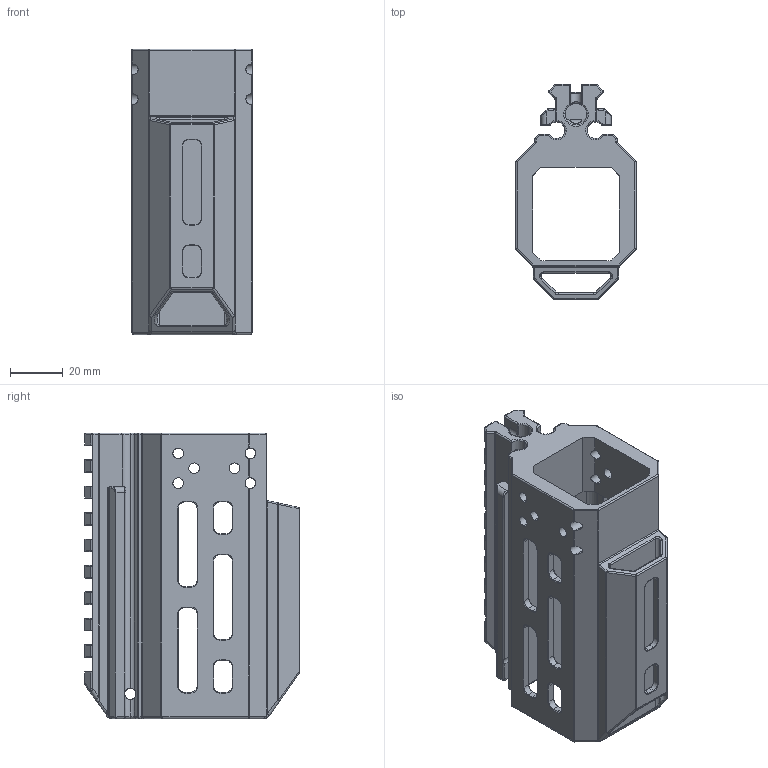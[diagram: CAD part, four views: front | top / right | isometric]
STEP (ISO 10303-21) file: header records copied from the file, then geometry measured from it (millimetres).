
FILE_DESCRIPTION (( 'STEP AP203' ), '1' );
FILE_NAME ('MICRO LENGTH FREE FLOAT 351322 10-17-20.STEP', '2020-10-17T20:17:56', ( '' ), ( '' ), 'SwSTEP 2.0', 'SolidWorks 2014', '' );
FILE_SCHEMA (( 'CONFIG_CONTROL_DESIGN' ));
Length unit declared in the file: millimetre
Products named in the file (2): MICRO LENGTH FREE FLOAT 351322 10-17-20
Bounding box: 45.5 x 81.25 x 107.95 mm (x, y, z)
Volume: 98798.7 mm3; surface area: 51660.8 mm2
Topology: 1 solids, 1 shells, 1079 faces, 2668 edges, 1527 vertices
Faces by surface type: cylinder 498, torus 265, plane 207, bspline 84, sphere 25
Entity records: 34247 total; most frequent: CARTESIAN_POINT 9006, DIRECTION 5580, ORIENTED_EDGE 5244, EDGE_CURVE 2622, AXIS2_PLACEMENT_3D 2249, VERTEX_POINT 1527, CIRCLE 1252, EDGE_LOOP 1115
